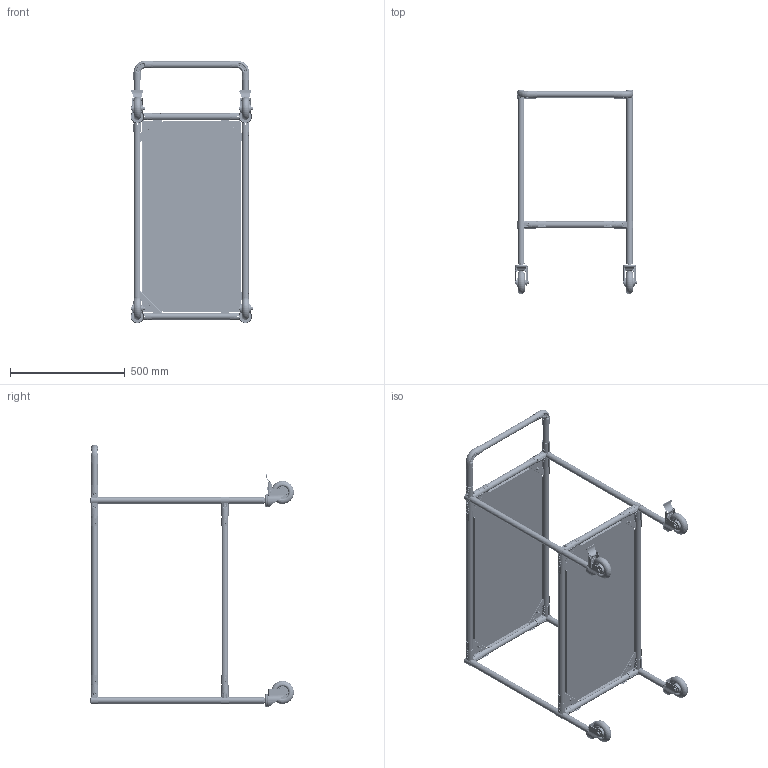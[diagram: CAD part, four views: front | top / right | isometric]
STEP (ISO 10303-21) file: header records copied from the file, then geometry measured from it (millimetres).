
FILE_DESCRIPTION (( 'STEP AP214' ), '1' );
FILE_NAME ('RSI-MST-900x500x900-2.STEP', '2026-01-27T07:55:18', ( '' ), ( '' ), 'SwSTEP 2.0', 'SolidWorks 2022', '' );
FILE_SCHEMA (( 'AUTOMOTIVE_DESIGN' ));
Length unit declared in the file: millimetre
Products named in the file (26): F-170; PR-28X3-A_L=750 мм; PR-28X3-A_L=400 мм; Винт полусфера ISO 7380_М6х16; df-2b_Кронштейн соединительный DF2B; FHJ-404; Гайка DIN934_M6; D-4; df-3b_Для сборки; F-180-1^df-17b; Polka RSI-MST-900x500x900-2; fh-1010b; D-17^df-17b; f-110-x.stp; FHJ-405; Шайба DIN7980_D8 DIN 7980; D-2; Шайба DIN125_6; F-180-1; F-170^df-17b; RSI-MST-900x500x900-2; df-17b_Кронштейн соединительный DF17B; PR-28X3-A_L=800 мм; Зеркально отразитьfh-1010b; D-3; PR-28X3-A_L=150 мм
Assembly tree (96 placements, depth 3):
  RSI-MST-900x500x900-2
    PR-28X3-A_L=800 мм  x4
    df-2b_Кронштейн соединительный DF2B  x6
      D-2
      D-3
      F-180-1
      F-170
    PR-28X3-A_L=750 мм  x4
    df-3b_Для сборки  x2
      D-4
      D-2
      F-180-1
      F-170
    PR-28X3-A_L=400 мм  x5
    PR-28X3-A_L=150 мм  x2
    df-17b_Кронштейн соединительный DF17B  x2
      D-17^df-17b
      F-180-1^df-17b
      F-170^df-17b
    f-110-x.stp  x4
    FHJ-405  x2
    FHJ-404  x2
    fh-1010b  x4
    Зеркально отразитьfh-1010b  x4
    Polka RSI-MST-900x500x900-2  x2
    Винт полусфера ISO 7380_М6х16  x8
    Шайба DIN125_6  x8
    Шайба DIN7980_D8 DIN 7980  x8
    Гайка DIN934_M6  x8
Bounding box: 535 x 887.4 x 1142.5 mm (x, y, z)
Volume: 5099275.2 mm3; surface area: 3608079 mm2
Topology: 133 solids, 133 shells, 7934 faces, 20274 edges, 12932 vertices
Faces by surface type: cylinder 3264, plane 2192, bspline 1112, cone 658, torus 548, sphere 160
Entity records: 102866 total; most frequent: CARTESIAN_POINT 59504, ORIENTED_EDGE 8696, DIRECTION 7343, EDGE_CURVE 4348, AXIS2_PLACEMENT_3D 2903, VERTEX_POINT 2766, EDGE_LOOP 1874, ADVANCED_FACE 1718
